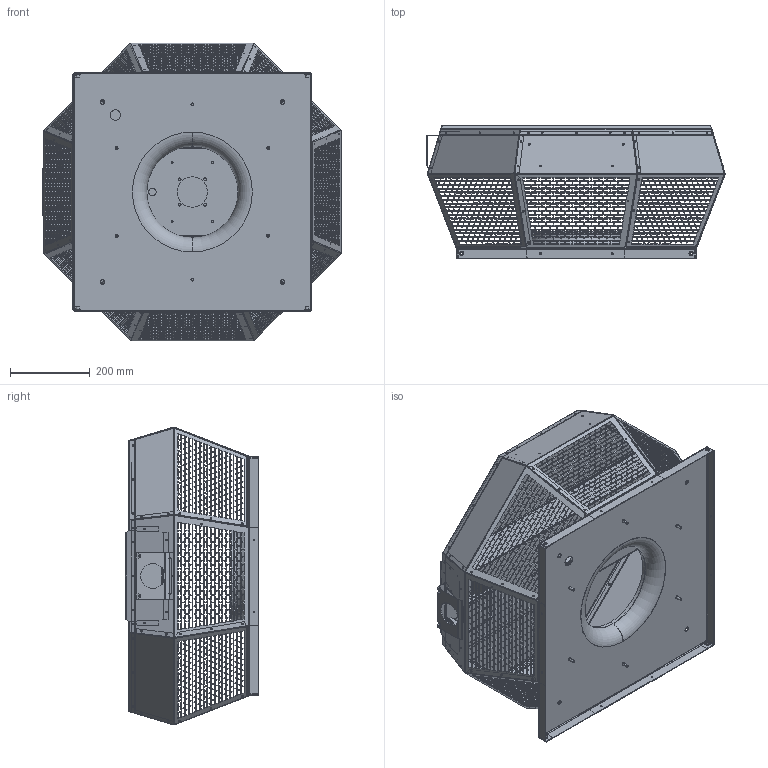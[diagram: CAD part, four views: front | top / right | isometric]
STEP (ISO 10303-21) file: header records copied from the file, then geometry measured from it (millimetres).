
FILE_DESCRIPTION (( 'STEP AP203' ), '1' );
FILE_NAME ('131267-00_DHA355ECP30.STEP', '2015-02-25T13:02:17', ( '' ), ( '' ), 'SwSTEP 2.0', 'SolidWorks 2012', '' );
FILE_SCHEMA (( 'CONFIG_CONTROL_DESIGN' ));
Products named in the file (1): 131267-00_DHA355ECP30
Bounding box: 746.93 x 332.97 x 745.01 mm (x, y, z)
Surface area: 3231291.9 mm2 (no closed solid volume)
Topology: 0 solids, 52 shells, 6036 faces, 24644 edges, 17250 vertices
Faces by surface type: plane 5434, cylinder 520, torus 36, bspline 26, cone 20
Entity records: 257303 total; most frequent: CARTESIAN_POINT 49798, ORIENTED_EDGE 40292, DIRECTION 37729, EDGE_CURVE 24644, VECTOR 23039, LINE 23039, VERTEX_POINT 17250, EDGE_LOOP 10186
